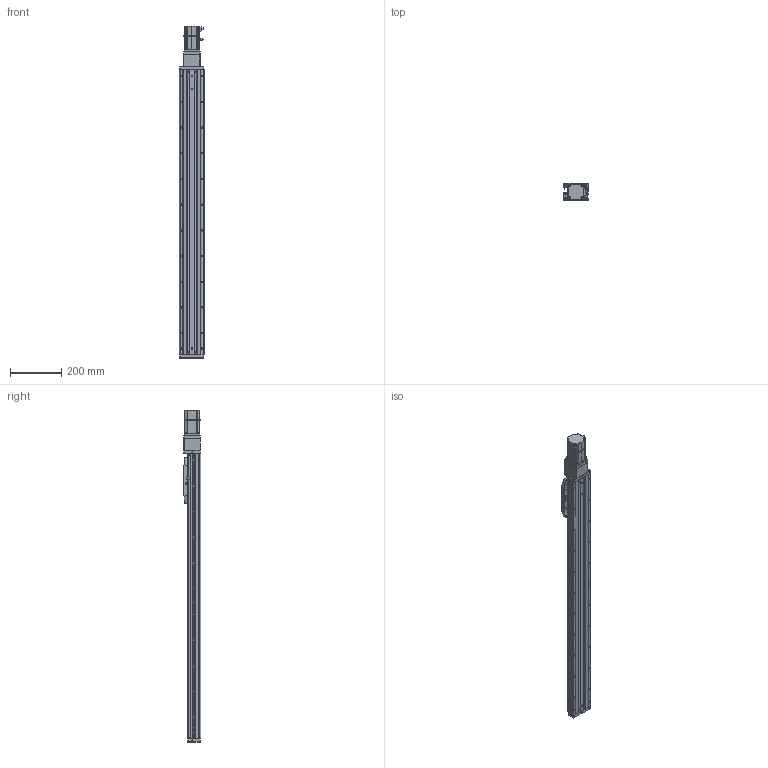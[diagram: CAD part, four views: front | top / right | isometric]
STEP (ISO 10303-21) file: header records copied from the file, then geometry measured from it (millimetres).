
FILE_DESCRIPTION (( 'STEP AP203' ), '1' );
FILE_NAME ('CTHA100-900-BC-M20-C4L.step', '2022-07-06T08:54:11', ( '微软用户' ), ( '微软中国' ), 'SwSTEP 2.0', 'SolidWorks 2020', '' );
FILE_SCHEMA (( 'CONFIG_CONTROL_DESIGN' ));
Length unit declared in the file: millimetre
Products named in the file (20): KTHA100-005; GBT70.1 M5℅16; GB¨uT 70.2-M3¡Á5_M3¡Á6; CTHA60-016; EE_SX911P_R; _X2_4E0983F1_X0_200W_1; CTHA100-002; CTHA60-017; CTHA86-013; CTHA100-031; CTHA60-021; CTHA86-027; CTHA86-030; KTHA100-001_1110; GBT77-2000 M3×3; CTHA86-006-1_CTHA86-006-2; CTHA100-900-BC-M20-C4L; KTHA100-004; GBT 70.1-M3℅6; GBT 70.3-M3℅6
Assembly tree (63 placements, depth 2):
  CTHA100-900-BC-M20-C4L
    KTHA100-001_1110
    KTHA100-004
    KTHA100-005
    GB¨uT 70.2-M3¡Á5_M3¡Á6  x10
    EE_SX911P_R  x3
    CTHA60-017  x3
    CTHA60-021  x2
    GBT77-2000 M3×3  x6
    GBT 70.1-M3℅6  x6
    GBT70.1 M5℅16  x14
    CTHA60-016  x2
    _X2_4E0983F1_X0_200W_1
    CTHA86-013
    CTHA86-027
    CTHA86-006-1_CTHA86-006-2
    GBT 70.3-M3℅6  x6
    CTHA100-002
    CTHA100-031
    CTHA86-030  x2
Bounding box: 98.82 x 68 x 1292.5 mm (x, y, z)
Volume: 4579080.2 mm3; surface area: 775366.4 mm2
Topology: 65 solids, 65 shells, 2719 faces, 6550 edges, 4048 vertices
Faces by surface type: plane 1423, cylinder 709, cone 382, torus 112, bspline 69, sphere 24
Entity records: 48226 total; most frequent: CARTESIAN_POINT 9010, DIRECTION 7591, ORIENTED_EDGE 7372, EDGE_CURVE 3686, AXIS2_PLACEMENT_3D 2565, VECTOR 2461, LINE 2461, VERTEX_POINT 2326
